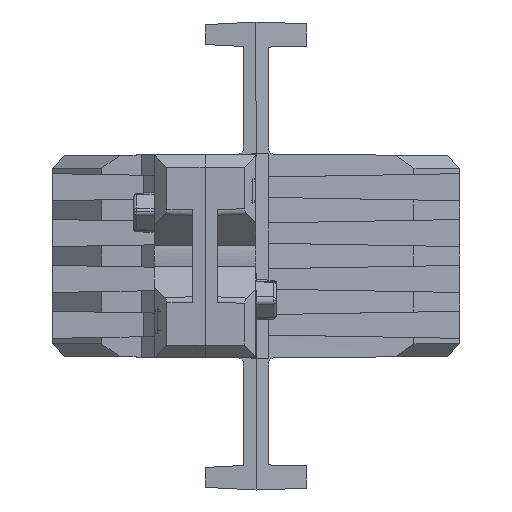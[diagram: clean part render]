
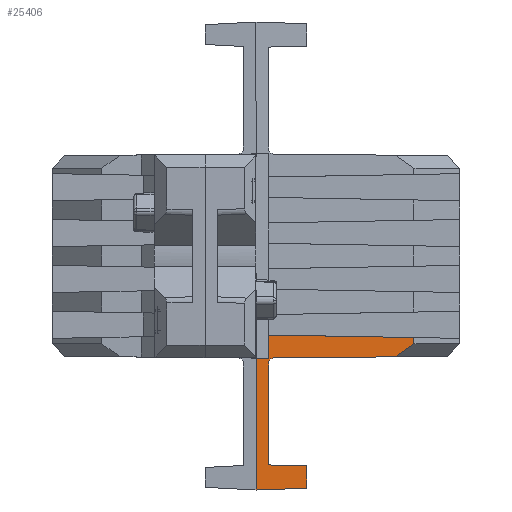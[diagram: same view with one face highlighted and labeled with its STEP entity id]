
A CAD part, left-side view. The second image highlights one B-rep face of the part: STEP entity #25406.
In plain terms, the highlighted planar face has unit normal (-0.999, -0.035, 0) as drawn and (-0.999, 0.035, 0) by its records, which use the part's own axes.
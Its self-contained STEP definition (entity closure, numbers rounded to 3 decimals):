
#5001=CARTESIAN_POINT(' ',(-39.566,33.655,9.892));
#5002=VERTEX_POINT(' ',#5001);
#5016=CARTESIAN_POINT(' ',(-39.566,33.655,9.892));
#5021=DIRECTION(' ',(-0.035,-0.999,0.009));
#5026=VECTOR(' ',#5021,1.);
#5031=LINE('',#5016,#5026);
#5036=CARTESIAN_POINT(' ',(-39.983,21.746,9.996));
#5037=VERTEX_POINT(' ',#5036);
#5041=EDGE_CURVE(' ',#5002,#5037,#5031,.T.);
#24911=CARTESIAN_POINT(' ',(-39.502,35.498,8.626));
#24912=VERTEX_POINT(' ',#24911);
#24926=CARTESIAN_POINT(' ',(-39.502,35.498,8.626));
#24931=DIRECTION(' ',(-0.029,-0.824,0.566));
#24936=VECTOR(' ',#24931,1.);
#24941=LINE('',#24926,#24936);
#24946=EDGE_CURVE(' ',#24912,#5002,#24941,.T.);
#24976=DIRECTION(' ',(-0.999,0.035,0.));
#24981=CARTESIAN_POINT(' ',(-39.502,35.498,7.751));
#24986=DIRECTION(' ',(-0.035,-0.999,0.));
#24991=AXIS2_PLACEMENT_3D(' ',#24981,#24976,#24986);
#24996=PLANE('NONE',#24991);
#25001=CARTESIAN_POINT(' ',(-39.502,35.498,8.));
#25006=DIRECTION(' ',(-0.035,-0.999,-0.017));
#25011=VECTOR(' ',#25006,1.);
#25016=LINE('',#25001,#25011);
#25021=CARTESIAN_POINT(' ',(-39.502,35.498,8.));
#25022=VERTEX_POINT(' ',#25021);
#25026=CARTESIAN_POINT(' ',(-40.,21.25,7.751));
#25027=VERTEX_POINT(' ',#25026);
#25031=EDGE_CURVE(' ',#25022,#25027,#25016,.T.);
#25036=ORIENTED_EDGE(' ',*,*,#25031,.T.);
#25041=CARTESIAN_POINT(' ',(-40.,21.25,7.751));
#25046=DIRECTION(' ',(0.,0.,1.));
#25051=VECTOR(' ',#25046,1.);
#25056=LINE('',#25041,#25051);
#25061=CARTESIAN_POINT(' ',(-40.,21.25,10.022));
#25062=VERTEX_POINT(' ',#25061);
#25066=EDGE_CURVE(' ',#25027,#25062,#25056,.T.);
#25071=ORIENTED_EDGE(' ',*,*,#25066,.T.);
#25076=CARTESIAN_POINT(' ',(-40.042,20.085,10.012));
#25081=DIRECTION(' ',(0.036,0.999,0.009));
#25086=VECTOR(' ',#25081,1.);
#25091=LINE('',#25076,#25086);
#25096=CARTESIAN_POINT(' ',(-40.042,20.085,10.012));
#25097=VERTEX_POINT(' ',#25096);
#25101=EDGE_CURVE(' ',#25097,#25062,#25091,.T.);
#25106=ORIENTED_EDGE(' ',*,*,#25101,.F.);
#25111=CARTESIAN_POINT(' ',(-40.042,20.085,10.012));
#25116=DIRECTION(' ',(0.,-0.013,1.));
#25121=VECTOR(' ',#25116,1.);
#25126=LINE('',#25111,#25121);
#25131=CARTESIAN_POINT(' ',(-40.044,20.004,16.082));
#25132=VERTEX_POINT(' ',#25131);
#25136=EDGE_CURVE(' ',#25097,#25132,#25126,.T.);
#25141=ORIENTED_EDGE(' ',*,*,#25136,.T.);
#25146=CARTESIAN_POINT(' ',(-40.044,20.004,16.082));
#25151=DIRECTION(' ',(0.,-0.001,1.));
#25156=VECTOR(' ',#25151,1.);
#25161=LINE('',#25146,#25156);
#25166=CARTESIAN_POINT(' ',(-40.043,20.,22.956));
#25167=VERTEX_POINT(' ',#25166);
#25171=EDGE_CURVE(' ',#25132,#25167,#25161,.T.);
#25176=ORIENTED_EDGE(' ',*,*,#25171,.T.);
#25181=CARTESIAN_POINT(' ',(-40.043,20.,22.956));
#25186=DIRECTION(' ',(0.035,0.999,-0.035));
#25191=VECTOR(' ',#25186,1.);
#25196=LINE('',#25181,#25191);
#25201=CARTESIAN_POINT(' ',(-39.869,25.,22.782));
#25202=VERTEX_POINT(' ',#25201);
#25206=EDGE_CURVE(' ',#25167,#25202,#25196,.T.);
#25211=ORIENTED_EDGE(' ',*,*,#25206,.T.);
#25216=CARTESIAN_POINT(' ',(-39.869,25.,22.782));
#25221=DIRECTION(' ',(0.,0.,-1.));
#25226=VECTOR(' ',#25221,1.);
#25231=LINE('',#25216,#25226);
#25236=CARTESIAN_POINT(' ',(-39.869,25.,20.565));
#25237=VERTEX_POINT(' ',#25236);
#25241=EDGE_CURVE(' ',#25202,#25237,#25231,.T.);
#25246=ORIENTED_EDGE(' ',*,*,#25241,.T.);
#25251=CARTESIAN_POINT(' ',(-39.869,25.,20.565));
#25256=DIRECTION(' ',(-0.035,-0.999,-0.017));
#25261=VECTOR(' ',#25256,1.);
#25266=LINE('',#25251,#25261);
#25271=CARTESIAN_POINT(' ',(-40.,21.25,20.5));
#25272=VERTEX_POINT(' ',#25271);
#25276=EDGE_CURVE(' ',#25237,#25272,#25266,.T.);
#25281=ORIENTED_EDGE(' ',*,*,#25276,.T.);
#25286=CARTESIAN_POINT(' ',(-40.,21.25,20.5));
#25291=DIRECTION(' ',(0.,0.,-1.));
#25296=VECTOR(' ',#25291,1.);
#25301=LINE('',#25286,#25296);
#25306=CARTESIAN_POINT(' ',(-40.,21.25,10.496));
#25307=VERTEX_POINT(' ',#25306);
#25311=EDGE_CURVE(' ',#25272,#25307,#25301,.T.);
#25316=ORIENTED_EDGE(' ',*,*,#25311,.T.);
#25321=CARTESIAN_POINT(' ',(-39.982,21.75,10.496));
#25326=DIRECTION(' ',(0.999,-0.035,0.));
#25331=DIRECTION(' ',(-0.035,-0.999,-0.001));
#25336=AXIS2_PLACEMENT_3D(' ',#25321,#25326,#25331);
#25341=CIRCLE('',#25336,0.5);
#25346=EDGE_CURVE(' ',#25307,#5037,#25341,.T.);
#25351=ORIENTED_EDGE(' ',*,*,#25346,.T.);
#25356=ORIENTED_EDGE(' ',*,*,#5041,.F.);
#25361=ORIENTED_EDGE(' ',*,*,#24946,.F.);
#25366=CARTESIAN_POINT(' ',(-39.502,35.498,8.626));
#25371=DIRECTION(' ',(0.,0.,-1.));
#25376=VECTOR(' ',#25371,1.);
#25381=LINE('',#25366,#25376);
#25386=EDGE_CURVE(' ',#24912,#25022,#25381,.T.);
#25391=ORIENTED_EDGE(' ',*,*,#25386,.T.);
#25396=EDGE_LOOP(' ',(#25036,#25071,#25106,#25141,#25176,#25211,#25246,#25281,#25316,#25351,#25356,#25361,#25391));
#25401=FACE_OUTER_BOUND(' ',#25396,.T.);
#25406=ADVANCED_FACE('NONE',(#25401),#24996,.T.);
